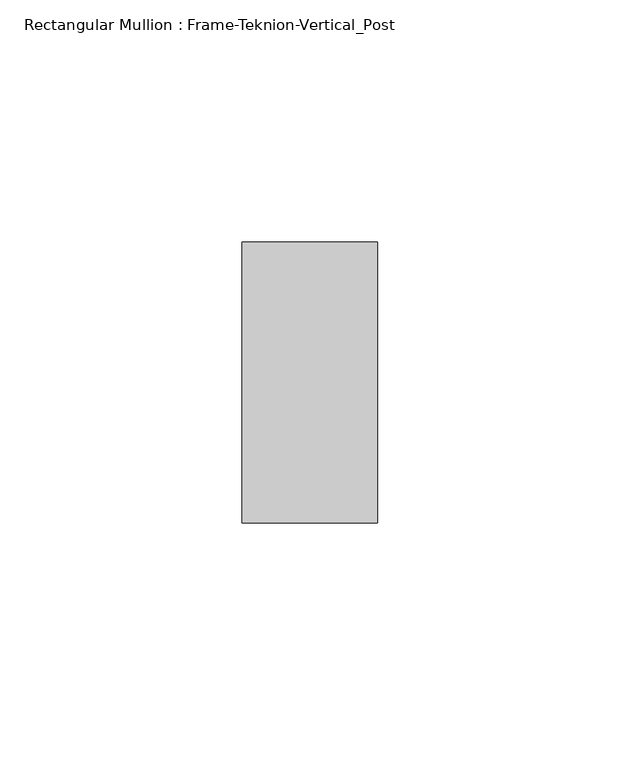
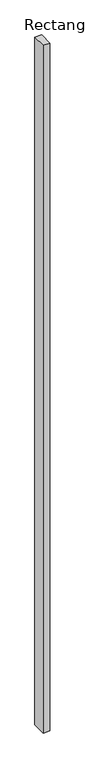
"""IFC4 building model written with IfcOpenShell, lengths in millimetres: member geometry, Rectangular Mullion : Frame-Teknion-Vertical_Post."""

from ifc_helpers import new_model, si_unit, frame, origin, place, context, project, spatial, polyline, outline, extrude, source, transform, mapped, element, save


def rectangular_mullion_frame_teknion_vertical_post_bb975e52(model_context):
    return source(origin(), model_context, "Body", "SweptSolid", [
        extrude(outline(polyline([(-27.9796875, 28.971875), (0.0, 28.971875), (0.0, -28.971875), (-27.9796875, -28.971875), (-27.9796875, 28.971875)])), frame((0.0, 0.0, -2962.0754327), z_axis=(0.0, 0.0, 1.0), x_axis=(1.0, 0.0, 0.0)), (0.0, 0.0, 1.0), 2962.0754327),
    ])


if __name__ == "__main__":
    model = new_model("IFC4")
    model_context = context("Model", 3, world=origin())
    ifc_project = project(units=[si_unit("LENGTHUNIT", "METRE", prefix="MILLI")], contexts=[model_context])
    site = spatial("IfcSite", under=ifc_project)
    building = spatial("IfcBuilding", under=site)
    placement = place(None, origin())
    rectangular_mullion_frame_teknion_vertical_post_shape = rectangular_mullion_frame_teknion_vertical_post_bb975e52(model_context)
    element("IfcMember", 1, ObjectType="Rectangular Mullion : Frame-Teknion-Vertical_Post", at=placement, inside=building, context=model_context, shape_type="MappedRepresentation", body=[
        mapped(rectangular_mullion_frame_teknion_vertical_post_shape, transform((0.0, 0.0, 0.0), x_axis=(1.0, 0.0, 0.0), y_axis=(0.0, 1.0, 0.0), z_axis=(0.0, 0.0, 1.0))),
    ])
    save(model, "model.ifc")
